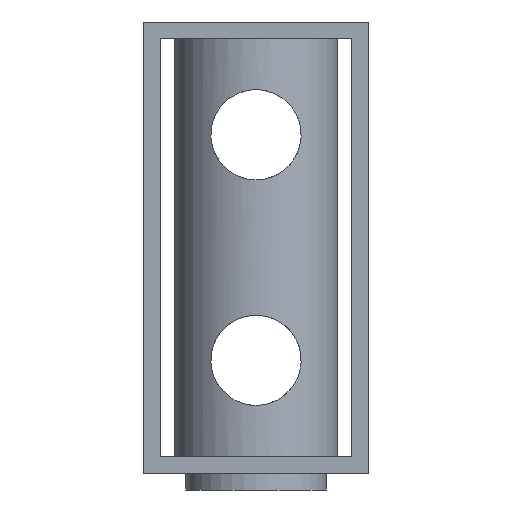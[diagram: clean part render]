
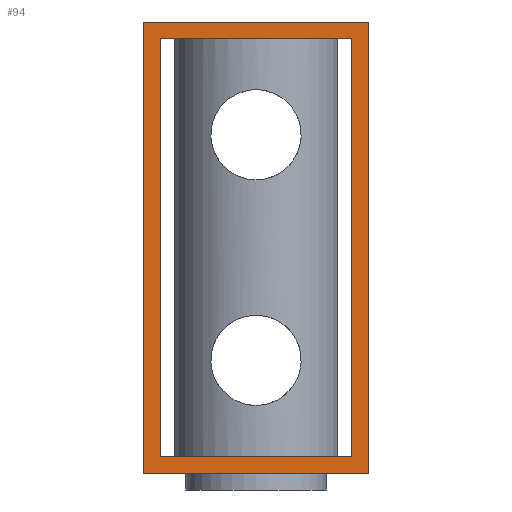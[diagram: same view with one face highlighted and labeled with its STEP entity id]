
A CAD part, front view. The second image highlights one B-rep face of the part: STEP entity #94.
In plain terms, the highlighted planar face has unit normal (0, -1, 0).
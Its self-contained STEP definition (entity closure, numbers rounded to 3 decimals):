
#94 = ADVANCED_FACE( '', ( #217, #218 ), #219, .F. );
#217 = FACE_BOUND( '', #332, .T. );
#218 = FACE_OUTER_BOUND( '', #333, .T. );
#219 = PLANE( '', #334 );
#332 = EDGE_LOOP( '', ( #517, #518, #519, #520 ) );
#333 = EDGE_LOOP( '', ( #521, #522, #523, #524 ) );
#334 = AXIS2_PLACEMENT_3D( '', #525, #526, #527 );
#517 = ORIENTED_EDGE( '', *, *, #580, .T. );
#518 = ORIENTED_EDGE( '', *, *, #533, .T. );
#519 = ORIENTED_EDGE( '', *, *, #575, .T. );
#520 = ORIENTED_EDGE( '', *, *, #563, .T. );
#521 = ORIENTED_EDGE( '', *, *, #541, .F. );
#522 = ORIENTED_EDGE( '', *, *, #550, .F. );
#523 = ORIENTED_EDGE( '', *, *, #587, .F. );
#524 = ORIENTED_EDGE( '', *, *, #596, .F. );
#525 = CARTESIAN_POINT( '', ( 0., -20., 0. ) );
#526 = DIRECTION( '', ( 0., 1., 0. ) );
#527 = DIRECTION( '', ( 0., 0., 1. ) );
#533 = EDGE_CURVE( '', #609, #610, #611, .T. );
#541 = EDGE_CURVE( '', #623, #624, #625, .T. );
#550 = EDGE_CURVE( '', #640, #623, #641, .T. );
#563 = EDGE_CURVE( '', #661, #662, #663, .T. );
#575 = EDGE_CURVE( '', #610, #661, #680, .T. );
#580 = EDGE_CURVE( '', #662, #609, #686, .T. );
#587 = EDGE_CURVE( '', #695, #640, #696, .T. );
#596 = EDGE_CURVE( '', #624, #695, #708, .T. );
#609 = VERTEX_POINT( '', #721 );
#610 = VERTEX_POINT( '', #722 );
#611 = LINE( '', #723, #724 );
#623 = VERTEX_POINT( '', #877 );
#624 = VERTEX_POINT( '', #878 );
#625 = LINE( '', #879, #880 );
#640 = VERTEX_POINT( '', #898 );
#641 = LINE( '', #899, #900 );
#661 = VERTEX_POINT( '', #1060 );
#662 = VERTEX_POINT( '', #1061 );
#663 = LINE( '', #1062, #1063 );
#680 = LINE( '', #1083, #1084 );
#686 = LINE( '', #1091, #1092 );
#695 = VERTEX_POINT( '', #1240 );
#696 = LINE( '', #1241, #1242 );
#708 = LINE( '', #1395, #1396 );
#721 = CARTESIAN_POINT( '', ( -8.5, -20., 28.5 ) );
#722 = CARTESIAN_POINT( '', ( 8.5, -20., 28.5 ) );
#723 = CARTESIAN_POINT( '', ( -8.5, -20., 28.5 ) );
#724 = VECTOR( '', #1412, 1000. );
#877 = CARTESIAN_POINT( '', ( -10., -20., -10. ) );
#878 = CARTESIAN_POINT( '', ( -10., -20., 30. ) );
#879 = CARTESIAN_POINT( '', ( -10., -20., -10. ) );
#880 = VECTOR( '', #1416, 1000. );
#898 = CARTESIAN_POINT( '', ( 10., -20., -10. ) );
#899 = CARTESIAN_POINT( '', ( 10., -20., -10. ) );
#900 = VECTOR( '', #1432, 1000. );
#1060 = CARTESIAN_POINT( '', ( 8.5, -20., -8.5 ) );
#1061 = CARTESIAN_POINT( '', ( -8.5, -20., -8.5 ) );
#1062 = CARTESIAN_POINT( '', ( 8.5, -20., -8.5 ) );
#1063 = VECTOR( '', #1447, 1000. );
#1083 = CARTESIAN_POINT( '', ( 8.5, -20., 28.5 ) );
#1084 = VECTOR( '', #1460, 1000. );
#1091 = CARTESIAN_POINT( '', ( -8.5, -20., -8.5 ) );
#1092 = VECTOR( '', #1465, 1000. );
#1240 = CARTESIAN_POINT( '', ( 10., -20., 30. ) );
#1241 = CARTESIAN_POINT( '', ( 10., -20., 30. ) );
#1242 = VECTOR( '', #1467, 1000. );
#1395 = CARTESIAN_POINT( '', ( -10., -20., 30. ) );
#1396 = VECTOR( '', #1471, 1000. );
#1412 = DIRECTION( '', ( 1., 0., 0. ) );
#1416 = DIRECTION( '', ( 0., 0., 1. ) );
#1432 = DIRECTION( '', ( -1., 0., 0. ) );
#1447 = DIRECTION( '', ( -1., 0., 0. ) );
#1460 = DIRECTION( '', ( 0., 0., -1. ) );
#1465 = DIRECTION( '', ( 0., 0., 1. ) );
#1467 = DIRECTION( '', ( 0., 0., -1. ) );
#1471 = DIRECTION( '', ( 1., 0., 0. ) );
